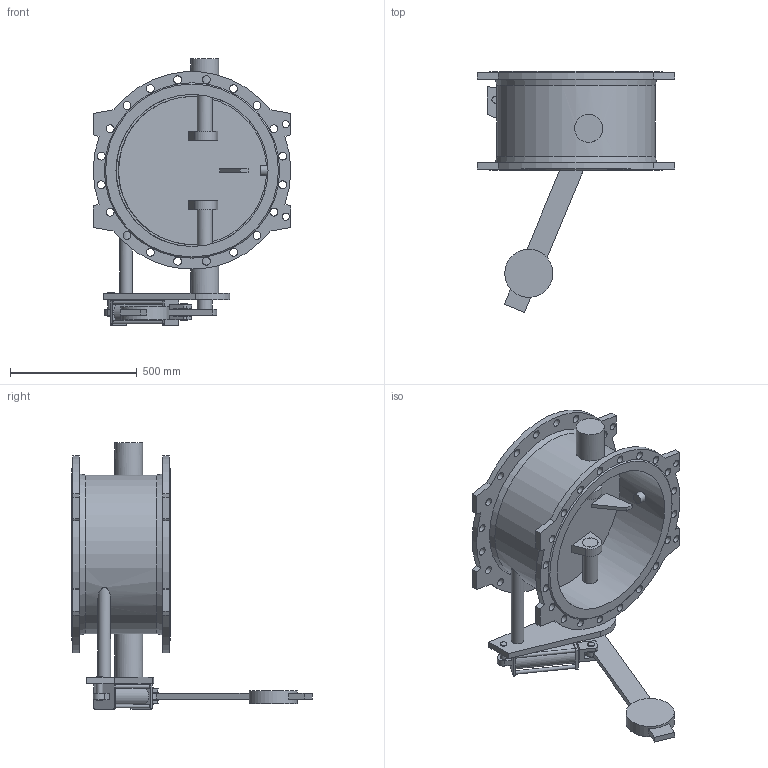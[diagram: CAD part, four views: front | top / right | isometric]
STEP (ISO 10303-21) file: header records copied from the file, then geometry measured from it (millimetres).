
FILE_DESCRIPTION(('STEP AP203'), '1');
FILE_NAME('Êëàïàí 015F.PV DN600 PN10 ñ ïðîòèâîâåñîì ñ äåìïôåðîì', '', ('UNSPECIFIED'), ('UNSPECIFIED'), 'ASCON STEP Converter 1.6', 'ASCON Math Kernel', '');
FILE_SCHEMA(('CONFIG_CONTROL_DESIGN'));
Length unit declared in the file: millimetre
Bounding box: 780 x 950 x 1050 mm (x, y, z)
Volume: 33898372.4 mm3; surface area: 3824566.4 mm2
Topology: 1 solids, 1 shells, 207 faces, 526 edges, 349 vertices
Faces by surface type: plane 100, cylinder 98, cone 4, extrusion 2, torus 2, bspline 1
Full cylindrical faces by diameter (mm): 14 x5, 18 x2, 26 x7, 28 x4, 31 x40, 35 x1, 40 x1, 50 x1, 60 x3, 62 x2, 80 x1, 110 x2, 190 x1, 600 x1, 626 x1
Entity records: 9848 total; most frequent: CARTESIAN_POINT 3114, DIRECTION 1026, ORIENTED_EDGE 880, EDGE_CURVE 440, EDGE_LOOP 430, AXIS2_PLACEMENT_3D 405, VERTEX_POINT 348, FACE_BOUND 273
